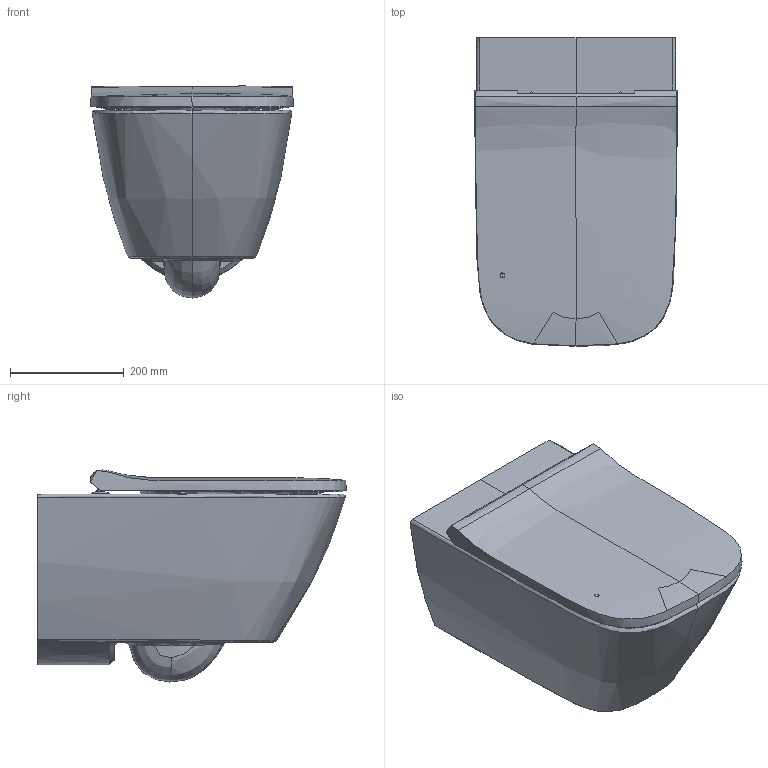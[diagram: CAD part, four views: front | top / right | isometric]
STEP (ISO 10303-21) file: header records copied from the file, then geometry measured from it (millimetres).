
FILE_DESCRIPTION(/* description */ (''),/* implementation_level */ '2;1');
FILE_NAME(/* name */ 'C:\Planerdaten\Export PLA\500.683.01.1\stp\500683.stp',/* time_stamp */ '2020-04-30T09:27:59+02:00',/* author */ ('JANAN'),/* organization */ (''),/* preprocessor_version */ 'ST-DEVELOPER v16.13',/* originating_system */ 'Autodesk Inventor 2018',/* authorisation */ '');
FILE_SCHEMA (('AUTOMOTIVE_DESIGN { 1 0 10303 214 3 1 1 }'));
Products named in the file (3): WWC-T Ge+SmyS+Sitz T54 Rfre QR übDl set; WWC-Tsp Ge+SmyS T54 geFrom Rfree; WC-Sitz Ge+SmyS Bef-o übDl slDes
Assembly tree (2 placements, depth 2):
  WWC-T Ge+SmyS+Sitz T54 Rfre QR übDl set
    WWC-Tsp Ge+SmyS T54 geFrom Rfree
    WC-Sitz Ge+SmyS Bef-o übDl slDes
Bounding box: 355.99 x 541.53 x 372.24 mm (x, y, z)
Volume: 29102306.9 mm3; surface area: 1397321 mm2
Topology: 5 solids, 15 shells, 560 faces, 1481 edges, 957 vertices
Faces by surface type: bspline 275, plane 165, cylinder 120
Full cylindrical faces by diameter (mm): 6 x2, 8.6 x2, 8.8 x2, 10 x2, 11.1 x2, 13.5 x4, 14.3 x2, 16 x2, 21.2 x2, 25.5 x1, 32 x2
Entity records: 83103 total; most frequent: CARTESIAN_POINT 70373, ORIENTED_EDGE 2876, DIRECTION 1837, EDGE_CURVE 1438, VERTEX_POINT 951, AXIS2_PLACEMENT_3D 665, EDGE_LOOP 630, STYLED_ITEM 565
